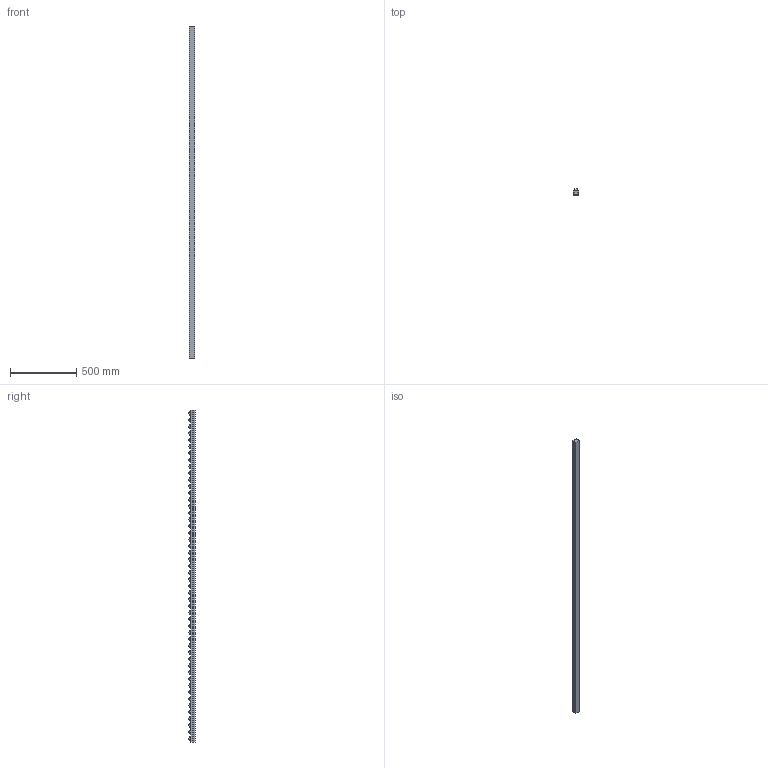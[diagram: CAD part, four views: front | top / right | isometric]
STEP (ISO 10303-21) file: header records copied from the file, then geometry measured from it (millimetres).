
FILE_DESCRIPTION (( 'STEP AP214' ), '1' );
FILE_NAME ('JB-57025.step', '2024-02-15T05:03:04', ( 'catia' ), ( 'HP Inc.' ), 'SwSTEP 2.0', 'SolidWorks 2021', '' );
FILE_SCHEMA (( 'AUTOMOTIVE_DESIGN' ));
Length unit declared in the file: millimetre
Products named in the file (1): JB-57025
Bounding box: 40 x 46 x 2500 mm (x, y, z)
Volume: 3399882.1 mm3; surface area: 462684.1 mm2
Topology: 1 solids, 1 shells, 164 faces, 336 edges, 224 vertices
Faces by surface type: plane 114, cylinder 50
Entity records: 4354 total; most frequent: DIRECTION 766, CARTESIAN_POINT 725, ORIENTED_EDGE 672, EDGE_CURVE 336, AXIS2_PLACEMENT_3D 265, VECTOR 236, LINE 236, VERTEX_POINT 224
